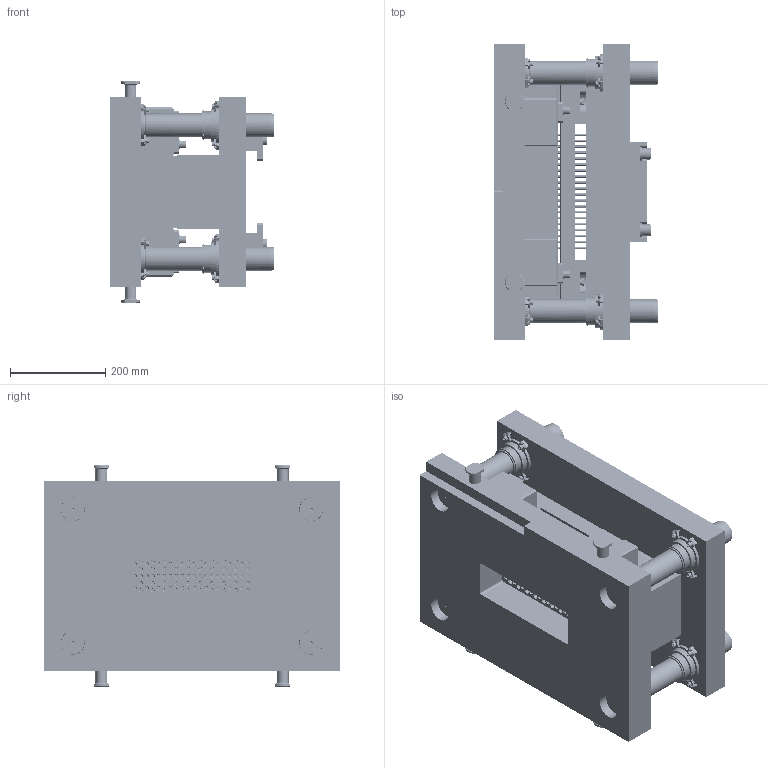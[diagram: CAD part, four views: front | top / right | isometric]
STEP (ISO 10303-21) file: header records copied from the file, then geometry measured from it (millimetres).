
FILE_DESCRIPTION(('STEP AP203'), '1');
FILE_NAME('Øòàìï âûðóáêè 250', '', ('UNSPECIFIED'), ('UNSPECIFIED'), 'C3D Converter', 'C3D Toolkit', '');
FILE_SCHEMA(('CONFIG_CONTROL_DESIGN'));
Length unit declared in the file: millimetre
Products named in the file (57): ШПО1-250.00.000 СБ; ШПО1-250.00.301; 1; 2; 3; 4; 5; 6; 7; 8; 9; УЗТСО.ШГР.00.311; ШПО1-250.00.305; ШПО2-450.00.311; ШПО2-450.00.311-01; ШПО1-250.00.303; ШПО2-450.00.310; ШПО1-450.00.308; ШПО1-250.00.304; ШПО1-450.00.309; ШПО1-250.00.302; ШВ0,7-450.00.318; ШПО1-250.00.307; ШПО1-250.00.306; ШПО1-450.00.310
Assembly tree (237 placements, depth 3):
  ШПО1-250.00.000 СБ
    ШПО1-250.00.301
    (unnamed)  x4
      1
      2
      3
      4
      5
      6
      7
      8
      9
    УЗТСО.ШГР.00.311  x4
    ШПО1-250.00.305
    ШПО2-450.00.311  x2
    ШПО2-450.00.311-01  x2
    ШПО1-250.00.303
    (unnamed)  x4
    (unnamed)  x12
    (unnamed)  x8
    ШПО2-450.00.310  x4
    (unnamed)  x8
    (unnamed)  x8
    (unnamed)  x8
    ШПО1-450.00.308  x2
    ШПО1-250.00.304
    (unnamed)  x16
    (unnamed)  x4
    (unnamed)  x4
    (unnamed)
    (unnamed)
    (unnamed)
    (unnamed)
    ШПО1-450.00.309  x2
    (unnamed)  x4
    (unnamed)  x4
    ШПО1-250.00.302
    (unnamed)  x4
      1
      2
      3
      4
      5
      6
      7
      8
      9
    (unnamed)  x4
    ШВ0,7-450.00.318  x2
    (unnamed)  x4
    (unnamed)  x4
    ШПО1-250.00.307
    ШПО1-250.00.306
    (unnamed)  x8
    (unnamed)  x2
    (unnamed)  x40
    ШПО1-450.00.310  x40
Bounding box: 346 x 620 x 464 mm (x, y, z)
Volume: 44298353.9 mm3; surface area: 3973581.2 mm2
Topology: 283 solids, 283 shells, 4726 faces, 10446 edges, 6614 vertices
Faces by surface type: plane 2313, cylinder 1459, cone 666, torus 288
Full cylindrical faces by diameter (mm): 4.917 x32, 5.009 x80, 5.01 x80, 5.07 x80, 6 x112, 6.647 x8, 8 x172, 8.376 x8, 9 x4, 10 x138, 10.106 x12, 10.5 x8, 11 x80, 11.63 x4, 12 x28, 13.835 x24, 14 x40, 16 x40, 17 x4, 18 x44, 20 x16, 22 x12, 24 x20, 25 x8, 28 x20, 30 x4, 45 x4, 50 x16, 58 x12, 63 x8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
Entity records: 69307 total; most frequent: CARTESIAN_POINT 17792, DIRECTION 9422, ORIENTED_EDGE 6232, AXIS2_PLACEMENT_3D 4299, EDGE_LOOP 4270, EDGE_CURVE 3116, VERTEX_POINT 2700, FACE_OUTER_BOUND 2337
